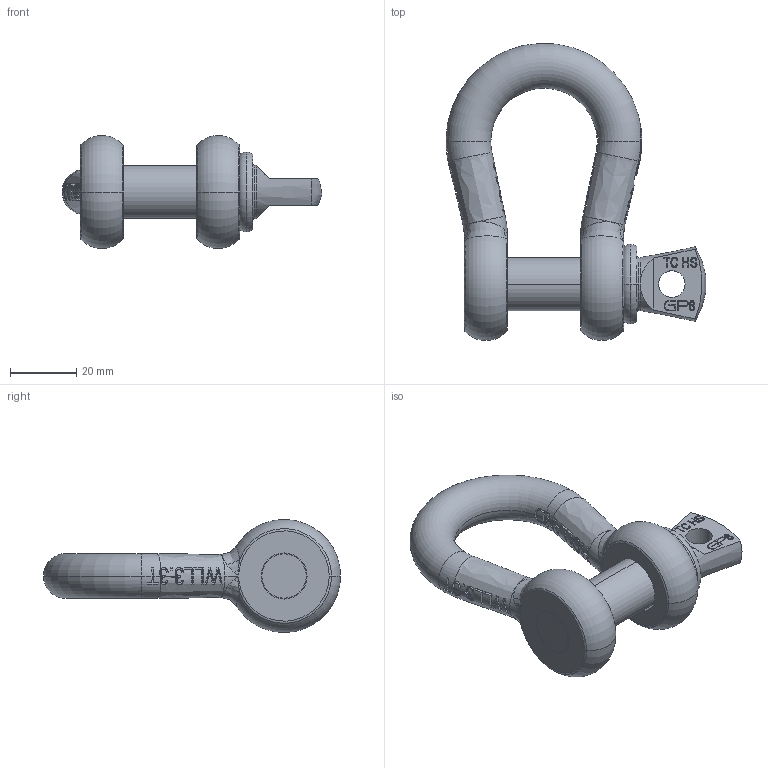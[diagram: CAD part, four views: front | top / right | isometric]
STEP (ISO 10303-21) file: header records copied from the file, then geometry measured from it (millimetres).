
FILE_DESCRIPTION(('STEP AP203'),'1');
FILE_NAME('sughbb13.stp','2022-10-07T13:31:48',('TraceParts'),('TraceParts S.A.'),'Spatial InterOp 3D',' ',' ');
FILE_SCHEMA(('CONFIG_CONTROL_DESIGN'));
Length unit declared in the file: millimetre
Products named in the file (1): 1
Bounding box: 78.28 x 89.47 x 34 mm (x, y, z)
Volume: 47927 mm3; surface area: 16070.7 mm2
Topology: 2 solids, 2 shells, 508 faces, 1400 edges, 901 vertices
Faces by surface type: plane 239, bspline 163, cylinder 63, torus 35, cone 8
Entity records: 25473 total; most frequent: CARTESIAN_POINT 14092, ORIENTED_EDGE 2742, DIRECTION 1725, EDGE_CURVE 1371, VERTEX_POINT 894, LINE 603, VECTOR 603, AXIS2_PLACEMENT_3D 561
